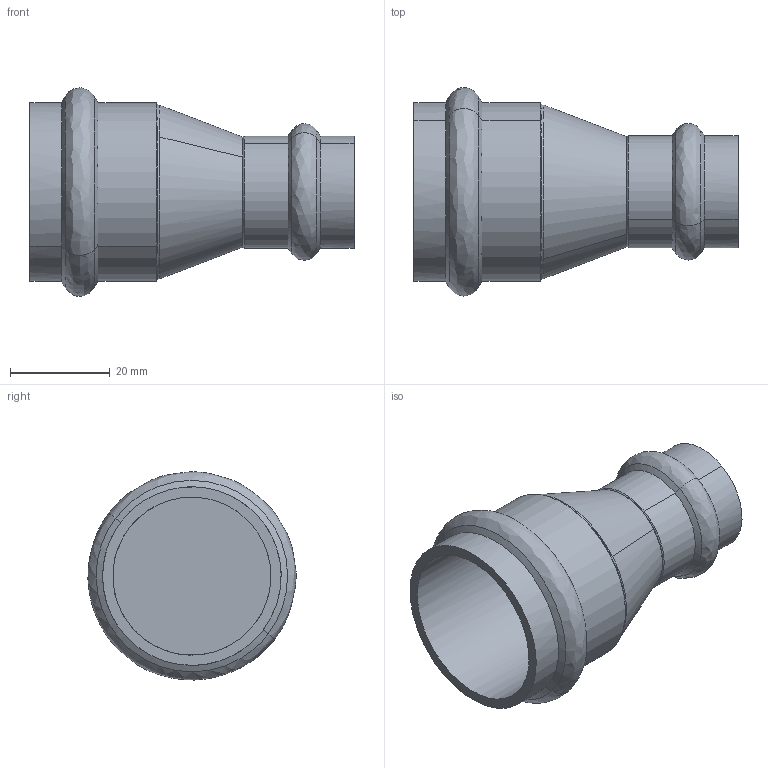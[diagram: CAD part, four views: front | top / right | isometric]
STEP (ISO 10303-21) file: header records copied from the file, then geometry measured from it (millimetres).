
FILE_DESCRIPTION(('STEP AP214'),'1');
FILE_NAME('pim0004378.stp','2015-04-30T11:16:45',('Cad-Pim'),('TransMagic, Inc.'),'TMR11sp0','TransMagic R11',' ');
FILE_SCHEMA(('AUTOMOTIVE_DESIGN'));
Length unit declared in the file: millimetre
Products named in the file (1): pim0004378
Bounding box: 65 x 41.77 x 41.76 mm (x, y, z)
Volume: 22583.6 mm3; surface area: 11996.2 mm2
Topology: 1 solids, 1 shells, 38 faces, 100 edges, 66 vertices
Faces by surface type: bspline 14, cylinder 12, cone 12
Entity records: 1936 total; most frequent: CARTESIAN_POINT 833, ORIENTED_EDGE 200, DIRECTION 128, EDGE_CURVE 100, VERTEX_POINT 66, AXIS2_PLACEMENT_3D 51, EDGE_LOOP 40, STYLED_ITEM 39
